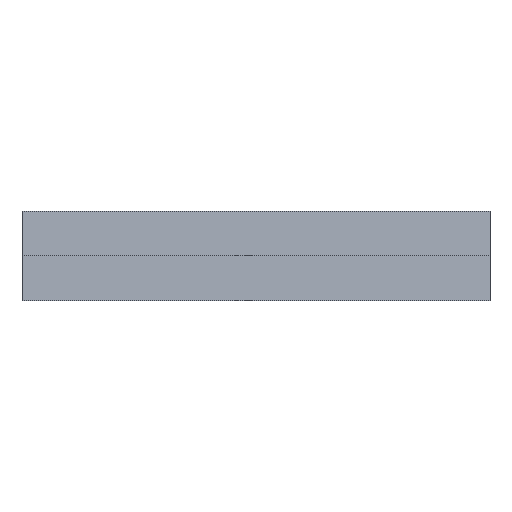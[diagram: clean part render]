
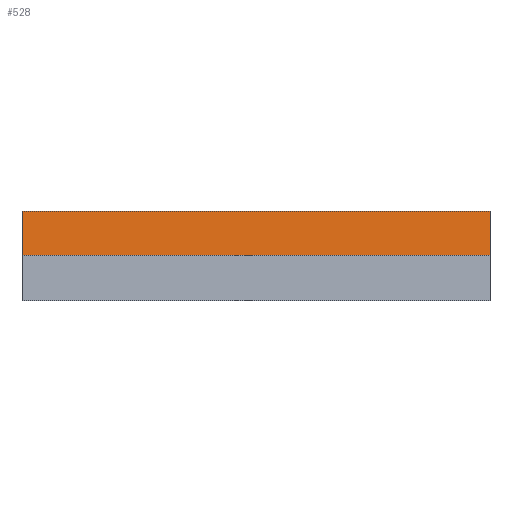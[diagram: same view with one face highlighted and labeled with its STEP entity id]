
A CAD part, front view. The second image highlights one B-rep face of the part: STEP entity #528.
In plain terms, the highlighted planar face has unit normal (0, -0.995, 0.104).
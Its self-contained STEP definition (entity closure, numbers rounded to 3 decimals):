
#32 = PLANE('',#33);
#33 = AXIS2_PLACEMENT_3D('',#34,#35,#36);
#34 = CARTESIAN_POINT('',(-29.,0.557,30.167));
#35 = DIRECTION('',(1.,-0.,-0.));
#36 = DIRECTION('',(0.,0.,-1.));
#169 = VERTEX_POINT('',#170);
#170 = CARTESIAN_POINT('',(-29.,-4.169,-4.333));
#184 = PLANE('',#185);
#185 = AXIS2_PLACEMENT_3D('',#186,#187,#188);
#186 = CARTESIAN_POINT('',(-29.,-4.669,-4.333));
#187 = DIRECTION('',(-0.,-0.,-1.));
#188 = DIRECTION('',(0.,-1.,0.));
#196 = EDGE_CURVE('',#169,#197,#199,.T.);
#197 = VERTEX_POINT('',#198);
#198 = CARTESIAN_POINT('',(-29.,-3.714,0.));
#199 = SURFACE_CURVE('',#200,(#204,#211),.PCURVE_S1.);
#200 = LINE('',#201,#202);
#201 = CARTESIAN_POINT('',(-29.,-4.59,-8.333));
#202 = VECTOR('',#203,1.);
#203 = DIRECTION('',(-0.,0.105,0.995));
#204 = PCURVE('',#32,#205);
#205 = DEFINITIONAL_REPRESENTATION('',(#206),#210);
#206 = LINE('',#207,#208);
#207 = CARTESIAN_POINT('',(38.5,-5.147));
#208 = VECTOR('',#209,1.);
#209 = DIRECTION('',(-0.995,0.105));
#210 = ( GEOMETRIC_REPRESENTATION_CONTEXT(2) 
PARAMETRIC_REPRESENTATION_CONTEXT() REPRESENTATION_CONTEXT('2D SPACE',''
  ) );
#211 = PCURVE('',#212,#217);
#212 = PLANE('',#213);
#213 = AXIS2_PLACEMENT_3D('',#214,#215,#216);
#214 = CARTESIAN_POINT('',(-29.,-4.59,-8.333));
#215 = DIRECTION('',(0.,0.995,-0.105));
#216 = DIRECTION('',(0.,-0.105,-0.995));
#217 = DEFINITIONAL_REPRESENTATION('',(#218),#222);
#218 = LINE('',#219,#220);
#219 = CARTESIAN_POINT('',(-0.,0.));
#220 = VECTOR('',#221,1.);
#221 = DIRECTION('',(-1.,0.));
#222 = ( GEOMETRIC_REPRESENTATION_CONTEXT(2) 
PARAMETRIC_REPRESENTATION_CONTEXT() REPRESENTATION_CONTEXT('2D SPACE',''
  ) );
#240 = PLANE('',#241);
#241 = AXIS2_PLACEMENT_3D('',#242,#243,#244);
#242 = CARTESIAN_POINT('',(-400.,388.,0.));
#243 = DIRECTION('',(0.,0.,1.));
#244 = DIRECTION('',(-1.,-0.,0.));
#349 = PLANE('',#350);
#350 = AXIS2_PLACEMENT_3D('',#351,#352,#353);
#351 = CARTESIAN_POINT('',(17.,0.557,30.167));
#352 = DIRECTION('',(1.,-0.,-0.));
#353 = DIRECTION('',(0.,0.,-1.));
#483 = EDGE_CURVE('',#484,#197,#486,.T.);
#484 = VERTEX_POINT('',#485);
#485 = CARTESIAN_POINT('',(17.,-3.714,0.));
#486 = SURFACE_CURVE('',#487,(#491,#498),.PCURVE_S1.);
#487 = LINE('',#488,#489);
#488 = CARTESIAN_POINT('',(-214.5,-3.714,0.));
#489 = VECTOR('',#490,1.);
#490 = DIRECTION('',(-1.,-0.,0.));
#491 = PCURVE('',#240,#492);
#492 = DEFINITIONAL_REPRESENTATION('',(#493),#497);
#493 = LINE('',#494,#495);
#494 = CARTESIAN_POINT('',(-185.5,391.714));
#495 = VECTOR('',#496,1.);
#496 = DIRECTION('',(1.,-0.));
#497 = ( GEOMETRIC_REPRESENTATION_CONTEXT(2) 
PARAMETRIC_REPRESENTATION_CONTEXT() REPRESENTATION_CONTEXT('2D SPACE',''
  ) );
#498 = PCURVE('',#212,#499);
#499 = DEFINITIONAL_REPRESENTATION('',(#500),#504);
#500 = LINE('',#501,#502);
#501 = CARTESIAN_POINT('',(-8.379,185.5));
#502 = VECTOR('',#503,1.);
#503 = DIRECTION('',(-0.,1.));
#504 = ( GEOMETRIC_REPRESENTATION_CONTEXT(2) 
PARAMETRIC_REPRESENTATION_CONTEXT() REPRESENTATION_CONTEXT('2D SPACE',''
  ) );
#528 = ADVANCED_FACE('',(#529),#212,.F.);
#529 = FACE_BOUND('',#530,.T.);
#530 = EDGE_LOOP('',(#531,#532,#555,#576));
#531 = ORIENTED_EDGE('',*,*,#196,.F.);
#532 = ORIENTED_EDGE('',*,*,#533,.T.);
#533 = EDGE_CURVE('',#169,#534,#536,.T.);
#534 = VERTEX_POINT('',#535);
#535 = CARTESIAN_POINT('',(17.,-4.169,-4.333));
#536 = SURFACE_CURVE('',#537,(#541,#548),.PCURVE_S1.);
#537 = LINE('',#538,#539);
#538 = CARTESIAN_POINT('',(-29.,-4.169,-4.333));
#539 = VECTOR('',#540,1.);
#540 = DIRECTION('',(1.,-0.,-0.));
#541 = PCURVE('',#212,#542);
#542 = DEFINITIONAL_REPRESENTATION('',(#543),#547);
#543 = LINE('',#544,#545);
#544 = CARTESIAN_POINT('',(-4.022,0.));
#545 = VECTOR('',#546,1.);
#546 = DIRECTION('',(-0.,-1.));
#547 = ( GEOMETRIC_REPRESENTATION_CONTEXT(2) 
PARAMETRIC_REPRESENTATION_CONTEXT() REPRESENTATION_CONTEXT('2D SPACE',''
  ) );
#548 = PCURVE('',#184,#549);
#549 = DEFINITIONAL_REPRESENTATION('',(#550),#554);
#550 = LINE('',#551,#552);
#551 = CARTESIAN_POINT('',(-0.5,0.));
#552 = VECTOR('',#553,1.);
#553 = DIRECTION('',(-0.,-1.));
#554 = ( GEOMETRIC_REPRESENTATION_CONTEXT(2) 
PARAMETRIC_REPRESENTATION_CONTEXT() REPRESENTATION_CONTEXT('2D SPACE',''
  ) );
#555 = ORIENTED_EDGE('',*,*,#556,.T.);
#556 = EDGE_CURVE('',#534,#484,#557,.T.);
#557 = SURFACE_CURVE('',#558,(#562,#569),.PCURVE_S1.);
#558 = LINE('',#559,#560);
#559 = CARTESIAN_POINT('',(17.,-4.59,-8.333));
#560 = VECTOR('',#561,1.);
#561 = DIRECTION('',(-0.,0.105,0.995));
#562 = PCURVE('',#212,#563);
#563 = DEFINITIONAL_REPRESENTATION('',(#564),#568);
#564 = LINE('',#565,#566);
#565 = CARTESIAN_POINT('',(-0.,-46.));
#566 = VECTOR('',#567,1.);
#567 = DIRECTION('',(-1.,0.));
#568 = ( GEOMETRIC_REPRESENTATION_CONTEXT(2) 
PARAMETRIC_REPRESENTATION_CONTEXT() REPRESENTATION_CONTEXT('2D SPACE',''
  ) );
#569 = PCURVE('',#349,#570);
#570 = DEFINITIONAL_REPRESENTATION('',(#571),#575);
#571 = LINE('',#572,#573);
#572 = CARTESIAN_POINT('',(38.5,-5.147));
#573 = VECTOR('',#574,1.);
#574 = DIRECTION('',(-0.995,0.105));
#575 = ( GEOMETRIC_REPRESENTATION_CONTEXT(2) 
PARAMETRIC_REPRESENTATION_CONTEXT() REPRESENTATION_CONTEXT('2D SPACE',''
  ) );
#576 = ORIENTED_EDGE('',*,*,#483,.T.);
